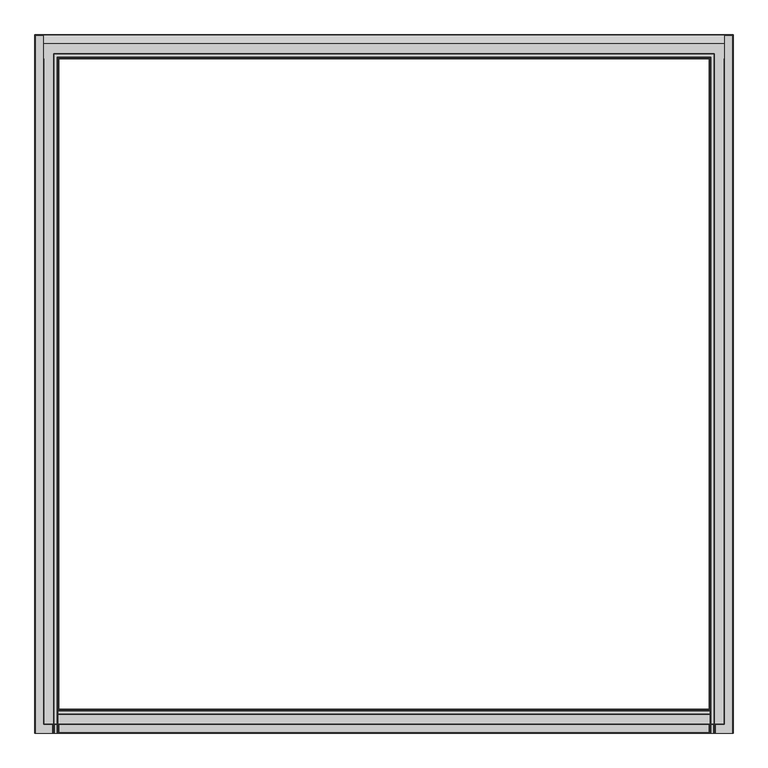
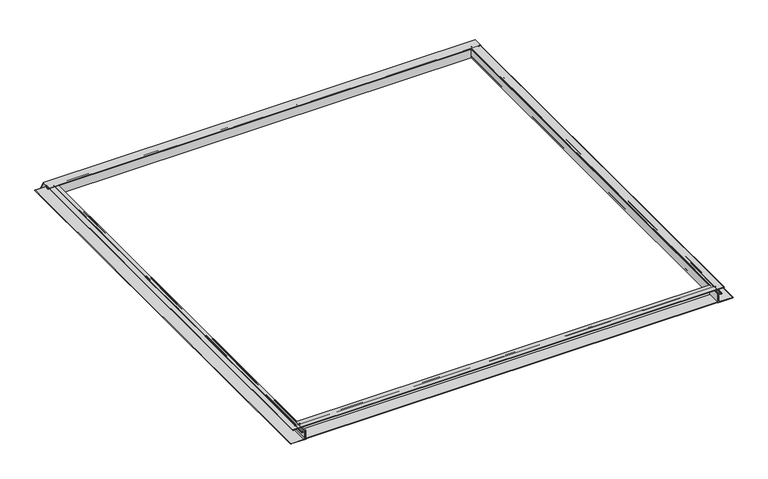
"""IFC4 building model written with IfcOpenShell, lengths in millimetres: fastener geometry."""

from ifc_helpers import new_model, si_unit, point, frame, frame_2d, origin, place, context, project, spatial, polyline, circle_curve, ellipse_curve, trimmed, segment, composite_curve, outline, extrude, source, transform, mapped, element, save
from ifc_brep_helpers import plane_surface, cylinder_surface, revolved_surface, advanced_brep


def fastener_f6a23df8(model_context):
    return source(origin(), model_context, "Body", "SolidModel", [
        advanced_brep(
        [(-1189.1053092, 1141.2343456, -15.1685625), (-1189.1053092, 1135.3165, -15.1685625), (-1189.1053092, 1135.3165, -13.8350625), (-1189.1053092, 1135.3165, -12.5015625), (-1189.1053092, 1190.6451024, -12.5015625), (-1189.1053092, 1217.7515464, -59.4513008), (-1189.1053092, 1215.4418567, -60.7848008), (-1189.1053092, 1189.1053092, -15.1685625), (-1189.1053092, 1161.8308783, -15.1685625), (-1189.1053092, 1159.573508, -17.4259327), (-1189.1053092, 1159.573508, -26.7633474), (-1189.1053092, 1149.6719492, -26.7633474), (-1189.1053092, 1149.6719492, -24.7662067), (-1189.1053092, 1150.5032605, -24.7662067), (-1189.1053092, 1151.5117177, -23.7577495), (-1189.1053092, 1151.5117177, -21.8661038), (-1189.1053092, 1156.2117258, -21.8661038), (-1189.1053092, 1156.2117258, -15.1685625), (-1189.1053092, 1152.1178999, -15.1685625), (-1189.1053092, 1151.9131963, -17.2095918), (-1189.1053092, 1152.9812344, -18.2776299), (-1189.1053092, 1152.5091166, -19.1991038), (-1189.1053092, 1140.8431289, -19.1991038), (-1189.1053092, 1140.3710112, -18.2776299), (-1189.1053092, 1141.4390493, -17.2095918), (1189.1053092, 1141.2343456, -15.1685625), (1189.1053092, 1141.4390493, -17.2095918), (1189.1053092, 1140.3710112, -18.2776299), (1189.1053092, 1140.8431289, -19.1991038), (1189.1053092, 1152.5091166, -19.1991038), (1189.1053092, 1152.9812344, -18.2776299), (1189.1053092, 1151.9131963, -17.2095918), (1189.1053092, 1152.1178999, -15.1685625), (1189.1053092, 1156.2117258, -15.1685625), (1189.1053092, 1156.2117258, -21.8661038), (1189.1053092, 1151.5117177, -21.8661038), (1189.1053092, 1151.5117177, -23.7577495), (1189.1053092, 1150.5032605, -24.7662067), (1189.1053092, 1149.6719492, -24.7662067), (1189.1053092, 1149.6719492, -26.7633474), (1189.1053092, 1159.573508, -26.7633474), (1189.1053092, 1159.573508, -17.4259327), (1189.1053092, 1161.8308783, -15.1685625), (1189.1053092, 1189.1053092, -15.1685625), (1189.1053092, 1215.4418567, -60.7848008), (1189.1053092, 1217.7515464, -59.4513008), (1189.1053092, 1190.6451024, -12.5015625), (1189.1053092, 1135.3165, -12.5015625), (1189.1053092, 1135.3165, -13.8350625), (1189.1053092, 1135.3165, -15.1685625), (1187.7718092, 1135.3165, -15.1685625), (1187.7718092, -1187.7718092, -15.1685625), (-1187.7718092, -1187.7718092, -15.1685625), (-1187.7718092, 1135.3165, -15.1685625), (1135.3165, 1135.3165, -15.1685625), (-1135.3165, 1135.3165, -15.1685625), (-1135.3165, -1135.3165, -15.1685625), (1135.3165, -1135.3165, -15.1685625), (-1141.2160631, 1135.3165, -15.1685625), (-1152.1361825, 1135.3165, -15.1685625), (-1152.1361825, -1152.1361825, -15.1685625), (1152.1361825, -1152.1361825, -15.1685625), (1152.1361825, 1135.3165, -15.1685625), (1141.2160631, 1135.3165, -15.1685625), (1141.2160631, -1141.2160631, -15.1685625), (-1141.2160631, -1141.2160631, -15.1685625), (-1156.2117258, 1135.3165, -15.1685625), (-1161.8308783, 1135.3165, -15.1685625), (-1161.8308783, -1161.8308783, -15.1685625), (1161.8308783, -1161.8308783, -15.1685625), (1161.8308783, 1135.3165, -15.1685625), (1156.2117258, 1135.3165, -15.1685625), (1156.2117258, -1156.2117258, -15.1685625), (-1156.2117258, -1156.2117258, -15.1685625), (-1187.7718092, 1135.3165, -12.5015625), (1187.7718092, 1135.3165, -12.5015625), (1135.3165, 1135.3165, -12.5015625), (-1135.3165, 1135.3165, -12.5015625), (-1187.7718092, -1187.7718092, -12.5015625), (1187.7718092, -1187.7718092, -12.5015625), (1135.3165, -1135.3165, -12.5015625), (-1135.3165, -1135.3165, -12.5015625), (-1141.4390493, 1135.3165, -17.221498), (-1140.3710112, 1135.3165, -18.2895361), (-1140.8431289, 1135.3165, -19.21101), (-1152.5091166, 1135.3165, -19.21101), (-1152.9812344, 1135.3165, -18.2895361), (-1151.9131963, 1135.3165, -17.221498), (-1156.2117258, 1135.3165, -21.87801), (-1151.5117177, 1135.3165, -21.87801), (-1151.5117177, 1135.3165, -23.7696558), (-1150.5032605, 1135.3165, -24.7781129), (-1149.6719492, 1135.3165, -24.7781129), (-1149.6719492, 1135.3165, -26.7633474), (-1159.573508, 1135.3165, -26.7633474), (-1159.573508, 1135.3165, -17.4259327), (-1141.4390493, -1141.4390493, -17.221498), (-1140.3710112, -1140.3710112, -18.2895361), (-1140.8431289, -1140.8431289, -19.21101), (1140.8431289, -1140.8431289, -19.21101), (1140.8431289, 1135.3165, -19.21101), (1152.5091166, 1135.3165, -19.21101), (1152.5091166, -1152.5091166, -19.21101), (-1152.5091166, -1152.5091166, -19.21101), (-1152.9812344, -1152.9812344, -18.2895361), (-1151.9131963, -1151.9131963, -17.221498), (-1156.2117258, -1156.2117258, -21.87801), (1156.2117258, -1156.2117258, -21.87801), (1156.2117258, 1135.3165, -21.87801), (1151.5117177, 1135.3165, -21.87801), (1151.5117177, -1151.5117177, -21.87801), (-1151.5117177, -1151.5117177, -21.87801), (-1151.5117177, -1151.5117177, -23.7696558), (-1150.5032605, -1150.5032605, -24.7781129), (1150.5032605, -1150.5032605, -24.7781129), (1150.5032605, 1135.3165, -24.7781129), (1149.6719492, 1135.3165, -24.7781129), (1149.6719492, -1149.6719492, -24.7781129), (-1149.6719492, -1149.6719492, -24.7781129), (-1149.6719492, -1149.6719492, -26.7633474), (1149.6719492, -1149.6719492, -26.7633474), (1149.6719492, 1135.3165, -26.7633474), (1159.573508, 1135.3165, -26.7633474), (1159.573508, -1159.573508, -26.7633474), (-1159.573508, -1159.573508, -26.7633474), (-1159.573508, -1159.573508, -17.4259327), (1141.4390493, -1141.4390493, -17.221498), (1140.3710112, -1140.3710112, -18.2895361), (1152.9812344, -1152.9812344, -18.2895361), (1151.9131963, -1151.9131963, -17.221498), (1151.5117177, -1151.5117177, -23.7696558), (1159.573508, -1159.573508, -17.4259327), (1140.3710112, 1135.3165, -18.2895361), (1141.4390493, 1135.3165, -17.221498), (1151.9131963, 1135.3165, -17.221498), (1152.9812344, 1135.3165, -18.2895361), (1159.573508, 1135.3165, -17.4259327), (1151.5117177, 1135.3165, -23.7696558)],
        [
            (0, 1),
            (1, 2),
            (2, 3),
            (3, 4),
            (4, 5),
            (5, 6),
            (6, 7),
            (7, 8),
            (8, 9, circle_curve(frame((-1189.1053092, 1161.8308783, -17.4259327), z_axis=(1.0, 0.0, 0.0), x_axis=(0.0, 1.0, 0.0)), 2.2573702)),
            (9, 10),
            (10, 11),
            (11, 12, circle_curve(frame((-1189.1053092, 1149.6719492, -25.764777), z_axis=(-1.0, 0.0, 0.0), x_axis=(0.0, 1.0, 0.0)), 0.9985703)),
            (12, 13),
            (13, 14, circle_curve(frame((-1189.1053092, 1150.5032605, -23.7577495), z_axis=(1.0, 0.0, 0.0), x_axis=(0.0, 1.0, 0.0)), 1.0084572)),
            (14, 15),
            (15, 16),
            (16, 17),
            (17, 18),
            (18, 19, circle_curve(frame((-1189.1053092, 1152.8500183, -16.2727698), z_axis=(1.0, 0.0, 0.0), x_axis=(0.0, 1.0, 0.0)), 1.3248664)),
            (19, 20),
            (20, 21, circle_curve(frame((-1189.1053092, 1152.5091166, -18.6174219), z_axis=(-1.0, 0.0, 0.0), x_axis=(0.0, 1.0, 0.0)), 0.5816819)),
            (21, 22),
            (22, 23, circle_curve(frame((-1189.1053092, 1140.8431289, -18.6174219), z_axis=(-1.0, 0.0, 0.0), x_axis=(0.0, 1.0, 0.0)), 0.5816819)),
            (23, 24),
            (24, 0, circle_curve(frame((-1189.1053092, 1140.5022273, -16.2727698), z_axis=(1.0, 0.0, 0.0), x_axis=(0.0, 1.0, 0.0)), 1.3248664)),
            (25, 26, circle_curve(frame((1189.1053092, 1140.5022273, -16.2727698), z_axis=(-1.0, 0.0, 0.0), x_axis=(0.0, 1.0, 0.0)), 1.3248664)),
            (26, 27),
            (27, 28, circle_curve(frame((1189.1053092, 1140.8431289, -18.6174219), z_axis=(1.0, 0.0, 0.0), x_axis=(0.0, 1.0, 0.0)), 0.5816819)),
            (28, 29),
            (29, 30, circle_curve(frame((1189.1053092, 1152.5091166, -18.6174219), z_axis=(1.0, 0.0, 0.0), x_axis=(0.0, 1.0, 0.0)), 0.5816819)),
            (30, 31),
            (31, 32, circle_curve(frame((1189.1053092, 1152.8500183, -16.2727698), z_axis=(-1.0, 0.0, 0.0), x_axis=(0.0, 1.0, 0.0)), 1.3248664)),
            (32, 33),
            (33, 34),
            (34, 35),
            (35, 36),
            (36, 37, circle_curve(frame((1189.1053092, 1150.5032605, -23.7577495), z_axis=(-1.0, 0.0, 0.0), x_axis=(0.0, 1.0, 0.0)), 1.0084572)),
            (37, 38),
            (38, 39, circle_curve(frame((1189.1053092, 1149.6719492, -25.764777), z_axis=(1.0, 0.0, 0.0), x_axis=(0.0, 1.0, 0.0)), 0.9985703)),
            (39, 40),
            (40, 41),
            (41, 42, circle_curve(frame((1189.1053092, 1161.8308783, -17.4259327), z_axis=(-1.0, 0.0, 0.0), x_axis=(0.0, 1.0, 0.0)), 2.2573702)),
            (42, 43),
            (43, 44),
            (44, 45),
            (45, 46),
            (46, 47),
            (47, 48),
            (48, 49),
            (49, 25),
            (0, 25),
            (49, 50),
            (50, 51),
            (51, 52),
            (52, 53),
            (53, 1),
            (54, 55),
            (55, 56),
            (56, 57),
            (57, 54),
            (58, 59),
            (59, 60),
            (60, 61),
            (61, 62),
            (62, 63),
            (63, 64),
            (64, 65),
            (65, 58),
            (66, 67),
            (67, 68),
            (68, 69),
            (69, 70),
            (70, 71),
            (71, 72),
            (72, 73),
            (73, 66),
            (53, 2, circle_curve(frame((-1187.7718092, 1135.3165, -13.8350625), z_axis=(0.0, 1.0, 0.0), x_axis=(1.0, 0.0, 0.0)), 1.3335)),
            (2, 74, circle_curve(frame((-1187.7718092, 1135.3165, -13.8350625), z_axis=(0.0, 1.0, 0.0), x_axis=(1.0, 0.0, 0.0)), 1.3335)),
            (74, 3),
            (47, 75),
            (75, 48, circle_curve(frame((1187.7718092, 1135.3165, -13.8350625), z_axis=(0.0, 1.0, 0.0), x_axis=(-1.0, 0.0, 0.0)), 1.3335)),
            (48, 50, circle_curve(frame((1187.7718092, 1135.3165, -13.8350625), z_axis=(0.0, 1.0, 0.0), x_axis=(-1.0, 0.0, 0.0)), 1.3335)),
            (54, 76),
            (76, 77),
            (77, 55),
            (74, 78),
            (78, 79),
            (79, 75),
            (46, 4),
            (76, 80),
            (80, 81),
            (81, 77),
            (45, 5),
            (44, 6),
            (43, 7),
            (42, 8),
            (41, 9),
            (40, 10),
            (39, 11),
            (38, 12),
            (37, 13),
            (36, 14),
            (35, 15),
            (34, 16),
            (33, 17),
            (32, 18),
            (19, 31),
            (30, 20),
            (29, 21),
            (28, 22),
            (27, 23),
            (26, 24),
            (58, 82, circle_curve(frame((-1140.5022273, 1135.3165, -16.284676), z_axis=(0.0, -1.0, 0.0), x_axis=(1.0, 0.0, 0.0)), 1.3248664)),
            (82, 83),
            (83, 84, circle_curve(frame((-1140.8431289, 1135.3165, -18.6293281), z_axis=(0.0, 1.0, 0.0), x_axis=(1.0, 0.0, 0.0)), 0.5816819)),
            (84, 85),
            (85, 86, circle_curve(frame((-1152.5091166, 1135.3165, -18.6293281), z_axis=(0.0, 1.0, 0.0), x_axis=(1.0, 0.0, 0.0)), 0.5816819)),
            (86, 87),
            (87, 59, circle_curve(frame((-1152.8500183, 1135.3165, -16.284676), z_axis=(0.0, -1.0, 0.0), x_axis=(1.0, 0.0, 0.0)), 1.3248664)),
            (66, 88),
            (88, 89),
            (89, 90),
            (90, 91, circle_curve(frame((-1150.5032605, 1135.3165, -23.7696558), z_axis=(0.0, -1.0, 0.0), x_axis=(1.0, 0.0, 0.0)), 1.0084572)),
            (91, 92),
            (92, 93, circle_curve(frame((-1149.6719492, 1135.3165, -25.7707301), z_axis=(0.0, 1.0, 0.0), x_axis=(1.0, 0.0, 0.0)), 0.9926172)),
            (93, 94),
            (94, 95),
            (95, 67, circle_curve(frame((-1161.8308783, 1135.3165, -17.4259327), z_axis=(0.0, -1.0, 0.0), x_axis=(1.0, 0.0, 0.0)), 2.2573702)),
            (65, 96, ellipse_curve(frame((-1140.5022273, -1140.5022273, -16.284676), z_axis=(0.7071067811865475, -0.7071067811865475, 0.0), x_axis=(-0.7071067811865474, -0.7071067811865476, 0.0)), 1.873644, 1.3248664)),
            (96, 82),
            (96, 97),
            (97, 83),
            (97, 98, ellipse_curve(frame((-1140.8431289, -1140.8431289, -18.6293281), z_axis=(-0.7071067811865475, 0.7071067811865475, 0.0), x_axis=(0.7071067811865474, 0.7071067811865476, 0.0)), 0.8226224, 0.5816819)),
            (98, 84),
            (98, 99),
            (99, 100),
            (100, 101),
            (101, 102),
            (102, 103),
            (103, 85),
            (103, 104, ellipse_curve(frame((-1152.5091166, -1152.5091166, -18.6293281), z_axis=(-0.7071067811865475, 0.7071067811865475, 0.0), x_axis=(0.7071067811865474, 0.7071067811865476, 0.0)), 0.8226224, 0.5816819)),
            (104, 86),
            (104, 105),
            (105, 87),
            (105, 60, ellipse_curve(frame((-1152.8500183, -1152.8500183, -16.284676), z_axis=(0.7071067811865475, -0.7071067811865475, 0.0), x_axis=(-0.7071067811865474, -0.7071067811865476, 0.0)), 1.873644, 1.3248664)),
            (73, 106),
            (106, 88),
            (106, 107),
            (107, 108),
            (108, 109),
            (109, 110),
            (110, 111),
            (111, 89),
            (111, 112),
            (112, 90),
            (112, 113, ellipse_curve(frame((-1150.5032605, -1150.5032605, -23.7696558), z_axis=(0.7071067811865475, -0.7071067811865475, 0.0), x_axis=(-0.7071067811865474, -0.7071067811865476, 0.0)), 1.4261738, 1.0084572)),
            (113, 91),
            (113, 114),
            (114, 115),
            (115, 116),
            (116, 117),
            (117, 118),
            (118, 92),
            (118, 119, ellipse_curve(frame((-1149.6719492, -1149.6719492, -25.7707301), z_axis=(-0.7071067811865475, 0.7071067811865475, 0.0), x_axis=(0.7071067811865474, 0.7071067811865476, 0.0)), 1.4037727, 0.9926172)),
            (119, 93),
            (119, 120),
            (120, 121),
            (121, 122),
            (122, 123),
            (123, 124),
            (124, 94),
            (124, 125),
            (125, 95),
            (125, 68, ellipse_curve(frame((-1161.8308783, -1161.8308783, -17.4259327), z_axis=(0.7071067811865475, -0.7071067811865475, 0.0), x_axis=(-0.7071067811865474, -0.7071067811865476, 0.0)), 3.1924036, 2.2573702)),
            (52, 78, ellipse_curve(frame((-1187.7718092, -1187.7718092, -13.8350625), z_axis=(-0.7071067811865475, 0.7071067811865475, 0.0), x_axis=(0.7071067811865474, 0.7071067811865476, 0.0)), 1.8858538, 1.3335)),
            (81, 56),
            (64, 126, ellipse_curve(frame((1140.5022273, -1140.5022273, -16.284676), z_axis=(0.7071067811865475, 0.7071067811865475, 0.0), x_axis=(0.7071067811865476, -0.7071067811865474, 0.0)), 1.873644, 1.3248664)),
            (126, 96),
            (126, 127),
            (127, 97),
            (127, 99, ellipse_curve(frame((1140.8431289, -1140.8431289, -18.6293281), z_axis=(-0.7071067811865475, -0.7071067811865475, 0.0), x_axis=(-0.7071067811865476, 0.7071067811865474, 0.0)), 0.8226224, 0.5816819)),
            (102, 128, ellipse_curve(frame((1152.5091166, -1152.5091166, -18.6293281), z_axis=(-0.7071067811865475, -0.7071067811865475, 0.0), x_axis=(-0.7071067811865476, 0.7071067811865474, 0.0)), 0.8226224, 0.5816819)),
            (128, 104),
            (128, 129),
            (129, 105),
            (129, 61, ellipse_curve(frame((1152.8500183, -1152.8500183, -16.284676), z_axis=(0.7071067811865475, 0.7071067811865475, 0.0), x_axis=(0.7071067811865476, -0.7071067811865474, 0.0)), 1.873644, 1.3248664)),
            (72, 107),
            (110, 130),
            (130, 112),
            (130, 114, ellipse_curve(frame((1150.5032605, -1150.5032605, -23.7696558), z_axis=(0.7071067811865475, 0.7071067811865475, 0.0), x_axis=(0.7071067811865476, -0.7071067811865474, 0.0)), 1.4261738, 1.0084572)),
            (117, 120, ellipse_curve(frame((1149.6719492, -1149.6719492, -25.7707301), z_axis=(-0.7071067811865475, -0.7071067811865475, 0.0), x_axis=(-0.7071067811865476, 0.7071067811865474, 0.0)), 1.4037727, 0.9926172)),
            (123, 131),
            (131, 125),
            (131, 69, ellipse_curve(frame((1161.8308783, -1161.8308783, -17.4259327), z_axis=(0.7071067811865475, 0.7071067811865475, 0.0), x_axis=(0.7071067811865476, -0.7071067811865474, 0.0)), 3.1924036, 2.2573702)),
            (51, 79, ellipse_curve(frame((1187.7718092, -1187.7718092, -13.8350625), z_axis=(-0.7071067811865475, -0.7071067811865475, 0.0), x_axis=(-0.7071067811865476, 0.7071067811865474, 0.0)), 1.8858538, 1.3335)),
            (80, 57),
            (100, 132, circle_curve(frame((1140.8431289, 1135.3165, -18.6293281), z_axis=(0.0, 1.0, 0.0), x_axis=(-1.0, 0.0, 0.0)), 0.5816819)),
            (132, 133),
            (133, 63, circle_curve(frame((1140.5022273, 1135.3165, -16.284676), z_axis=(0.0, -1.0, 0.0), x_axis=(-1.0, 0.0, 0.0)), 1.3248664)),
            (62, 134, circle_curve(frame((1152.8500183, 1135.3165, -16.284676), z_axis=(0.0, -1.0, 0.0), x_axis=(-1.0, 0.0, 0.0)), 1.3248664)),
            (134, 135),
            (135, 101, circle_curve(frame((1152.5091166, 1135.3165, -18.6293281), z_axis=(0.0, 1.0, 0.0), x_axis=(-1.0, 0.0, 0.0)), 0.5816819)),
            (108, 71),
            (70, 136, circle_curve(frame((1161.8308783, 1135.3165, -17.4259327), z_axis=(0.0, -1.0, 0.0), x_axis=(-1.0, 0.0, 0.0)), 2.2573702)),
            (136, 122),
            (121, 116, circle_curve(frame((1149.6719492, 1135.3165, -25.7707301), z_axis=(0.0, 1.0, 0.0), x_axis=(-1.0, 0.0, 0.0)), 0.9926172)),
            (115, 137, circle_curve(frame((1150.5032605, 1135.3165, -23.7696558), z_axis=(0.0, -1.0, 0.0), x_axis=(-1.0, 0.0, 0.0)), 1.0084572)),
            (137, 109),
            (133, 126),
            (132, 127),
            (135, 128),
            (134, 129),
            (137, 130),
            (136, 131),
        ],
        [
            plane_surface(frame((-1189.1053092, 1219.2, 0.0), z_axis=(-1.0, 0.0, 0.0), x_axis=(0.0, 0.0, 1.0))),
            plane_surface(frame((1189.1053092, 1219.2, 0.0), z_axis=(1.0, 0.0, 0.0), x_axis=(0.0, 0.0, 1.0))),
            plane_surface(frame((-1189.1053092, 1141.2343456, -15.1685625), z_axis=(0.0, 0.0, -1.0), x_axis=(1.0, 0.0, 0.0))),
            plane_surface(frame((-1189.1053092, 1135.3165, -15.1685625), z_axis=(0.0, -1.0, 0.0), x_axis=(1.0, 0.0, 0.0))),
            plane_surface(frame((-1189.1053092, 1135.3165, -12.5015625), z_axis=(0.0, 0.0, 1.0), x_axis=(1.0, 0.0, 0.0))),
            plane_surface(frame((-1189.1053092, 1190.6451024, -12.5015625), z_axis=(0.0, 0.8660254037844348, 0.5000000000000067), x_axis=(1.0, 0.0, 0.0))),
            plane_surface(frame((-1189.1053092, 1217.7515464, -59.4513008), z_axis=(0.0, 0.4999999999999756, -0.8660254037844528), x_axis=(1.0, 0.0, 0.0))),
            plane_surface(frame((-1189.1053092, 1215.4418567, -60.7848008), z_axis=(0.0, -0.8660254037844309, -0.5000000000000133), x_axis=(1.0, 0.0, 0.0))),
            plane_surface(frame((-1189.1053092, 1189.1053092, -15.1685625), z_axis=(0.0, 0.0, -1.0), x_axis=(1.0, 0.0, 0.0))),
            revolved_surface(polyline([(1189.1053092, 1164.0882485, -17.4259327), (-1189.1053092, 1164.0882485, -17.4259327)]), (-1189.1053092, 1161.8308783, -17.4259327), (1.0, 0.0, 0.0)),
            plane_surface(frame((-1189.1053092, 1159.573508, -17.4259327), z_axis=(0.0, 1.0, 0.0), x_axis=(1.0, 0.0, 0.0))),
            plane_surface(frame((-1189.1053092, 1159.573508, -26.7633474), z_axis=(0.0, 0.0, -1.0), x_axis=(1.0, 0.0, 0.0))),
            cylinder_surface(frame((-1189.1053092, 1149.6719492, -25.764777), z_axis=(-1.0, 0.0, 0.0), x_axis=(0.0, 1.0, 0.0)), 0.9985703),
            plane_surface(frame((-1189.1053092, 1149.6719492, -24.7662067), z_axis=(0.0, 0.0, 1.0), x_axis=(1.0, 0.0, 0.0))),
            revolved_surface(polyline([(1189.1053092, 1151.5117177, -23.7577495), (-1189.1053092, 1151.5117177, -23.7577495)]), (-1189.1053092, 1150.5032605, -23.7577495), (1.0, 0.0, 0.0)),
            plane_surface(frame((-1189.1053092, 1151.5117177, -23.7577495), z_axis=(0.0, -1.0, 0.0), x_axis=(1.0, 0.0, 0.0))),
            plane_surface(frame((-1189.1053092, 1151.5117177, -21.8661038), z_axis=(0.0, 0.0, 1.0), x_axis=(1.0, 0.0, 0.0))),
            plane_surface(frame((-1189.1053092, 1156.2117258, -21.8661038), z_axis=(0.0, -1.0, 0.0), x_axis=(1.0, 0.0, 0.0))),
            plane_surface(frame((-1189.1053092, 1156.2117258, -15.1685625), z_axis=(0.0, 0.0, -1.0), x_axis=(1.0, 0.0, 0.0))),
            plane_surface(frame((-1189.1053092, 1151.9131963, -17.2095918), z_axis=(0.0, 0.7071067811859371, 0.7071067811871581), x_axis=(1.0, 0.0, 0.0))),
            cylinder_surface(frame((-1189.1053092, 1152.5091166, -18.6174219), z_axis=(-1.0, 0.0, 0.0), x_axis=(0.0, 1.0, 0.0)), 0.5816819),
            plane_surface(frame((-1189.1053092, 1152.5091166, -19.1991038), z_axis=(0.0, 0.0, -1.0), x_axis=(1.0, 0.0, 0.0))),
            cylinder_surface(frame((-1189.1053092, 1140.8431289, -18.6174219), z_axis=(-1.0, 0.0, 0.0), x_axis=(0.0, 1.0, 0.0)), 0.5816819),
            plane_surface(frame((-1189.1053092, 1140.3710112, -18.2776299), z_axis=(0.0, -0.7071067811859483, 0.7071067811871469), x_axis=(1.0, 0.0, 0.0))),
            revolved_surface(polyline([(1189.1053092, 1154.1748847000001, -16.2727698), (-1189.1053092, 1154.1748847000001, -16.2727698)]), (-1189.1053092, 1152.8500183, -16.2727698), (1.0, 0.0, 0.0)),
            revolved_surface(polyline([(1189.1053092, 1141.8270937, -16.2727698), (-1189.1053092, 1141.8270937, -16.2727698)]), (-1189.1053092, 1140.5022273, -16.2727698), (1.0, 0.0, 0.0)),
            plane_surface(frame((-1219.2, 1135.3165, 0.0), z_axis=(0.0, 1.0, 0.0), x_axis=(0.0, 0.0, 1.0))),
            revolved_surface(polyline([(-1139.1773609, -1141.8270936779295, -16.284676), (-1139.1773609, 1135.3165, -16.284676)]), (-1140.5022273, 1135.3165, -16.284676), (0.0, -1.0, 0.0)),
            plane_surface(frame((-1141.4390493, 1135.3165, -17.221498), z_axis=(0.7071067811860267, 0.0, 0.7071067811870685), x_axis=(0.0, -1.0, 0.0))),
            cylinder_surface(frame((-1140.8431289, 1135.3165, -18.6293281), z_axis=(0.0, 1.0, 0.0), x_axis=(1.0, 0.0, 0.0)), 0.5816819),
            plane_surface(frame((-1140.8431289, 1135.3165, -19.21101), z_axis=(0.0, 0.0, -1.0), x_axis=(0.0, -1.0, 0.0))),
            cylinder_surface(frame((-1152.5091166, 1135.3165, -18.6293281), z_axis=(0.0, 1.0, 0.0), x_axis=(1.0, 0.0, 0.0)), 0.5816819),
            plane_surface(frame((-1152.9812344, 1135.3165, -18.2895361), z_axis=(-0.7071067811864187, 0.0, 0.7071067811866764), x_axis=(0.0, -1.0, 0.0))),
            revolved_surface(polyline([(-1151.5251519, -1154.1748846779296, -16.284676), (-1151.5251519, 1135.3165, -16.284676)]), (-1152.8500183, 1135.3165, -16.284676), (0.0, -1.0, 0.0)),
            plane_surface(frame((-1156.2117258, 1135.3165, -15.1685625), z_axis=(1.0, 0.0, 0.0), x_axis=(0.0, -1.0, 0.0))),
            plane_surface(frame((-1156.2117258, 1135.3165, -21.87801), z_axis=(0.0, 0.0, 1.0), x_axis=(0.0, -1.0, 0.0))),
            plane_surface(frame((-1151.5117177, 1135.3165, -21.87801), z_axis=(1.0, 0.0, 0.0), x_axis=(0.0, -1.0, 0.0))),
            revolved_surface(polyline([(-1149.4948032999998, -1151.5117177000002, -23.7696558), (-1149.4948032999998, 1135.3165, -23.7696558)]), (-1150.5032605, 1135.3165, -23.7696558), (0.0, -1.0, 0.0)),
            plane_surface(frame((-1150.5032605, 1135.3165, -24.7781129), z_axis=(0.0, 0.0, 1.0), x_axis=(0.0, -1.0, 0.0))),
            cylinder_surface(frame((-1149.6719492, 1135.3165, -25.7707301), z_axis=(0.0, 1.0, 0.0), x_axis=(1.0, 0.0, 0.0)), 0.9926172),
            plane_surface(frame((-1149.6719492, 1135.3165, -26.7633474), z_axis=(0.0, 0.0, -1.0), x_axis=(0.0, -1.0, 0.0))),
            plane_surface(frame((-1159.573508, 1135.3165, -26.7633474), z_axis=(-1.0, 0.0, 0.0), x_axis=(0.0, -1.0, 0.0))),
            revolved_surface(polyline([(-1159.5735081, -1164.0882485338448, -17.4259327), (-1159.5735081, 1135.3165, -17.4259327)]), (-1161.8308783, 1135.3165, -17.4259327), (0.0, -1.0, 0.0)),
            cylinder_surface(frame((-1187.7718092, 1135.3165, -13.8350625), z_axis=(0.0, 1.0, 0.0), x_axis=(1.0, 0.0, 0.0)), 1.3335),
            plane_surface(frame((-1135.3165, 1135.3165, -12.5015625), z_axis=(1.0, 0.0, 0.0), x_axis=(0.0, -1.0, 0.0))),
            revolved_surface(polyline([(1141.8270936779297, -1139.1773609, -16.284676), (-1141.8270936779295, -1139.1773609, -16.284676)]), (-1219.2, -1140.5022273, -16.284676), (1.0, 0.0, 0.0)),
            plane_surface(frame((-1141.4390493, -1141.4390493, -17.221498), z_axis=(0.0, 0.7071067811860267, 0.7071067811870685), x_axis=(1.0, 0.0, 0.0))),
            cylinder_surface(frame((-1219.2, -1140.8431289, -18.6293281), z_axis=(-1.0, 0.0, 0.0), x_axis=(0.0, 1.0, 0.0)), 0.5816819),
            cylinder_surface(frame((-1219.2, -1152.5091166, -18.6293281), z_axis=(-1.0, 0.0, 0.0), x_axis=(0.0, 1.0, 0.0)), 0.5816819),
            plane_surface(frame((-1152.9812344, -1152.9812344, -18.2895361), z_axis=(0.0, -0.7071067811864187, 0.7071067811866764), x_axis=(1.0, 0.0, 0.0))),
            revolved_surface(polyline([(1154.1748846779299, -1151.5251519, -16.284676), (-1154.1748846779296, -1151.5251519, -16.284676)]), (-1219.2, -1152.8500183, -16.284676), (1.0, 0.0, 0.0)),
            plane_surface(frame((-1156.2117258, -1156.2117258, -15.1685625), z_axis=(0.0, 1.0, 0.0), x_axis=(1.0, 0.0, 0.0))),
            plane_surface(frame((-1151.5117177, -1151.5117177, -21.87801), z_axis=(0.0, 1.0, 0.0), x_axis=(1.0, 0.0, 0.0))),
            revolved_surface(polyline([(1151.5117177, -1149.4948032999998, -23.7696558), (-1151.5117177, -1149.4948032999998, -23.7696558)]), (-1219.2, -1150.5032605, -23.7696558), (1.0, 0.0, 0.0)),
            cylinder_surface(frame((-1219.2, -1149.6719492, -25.7707301), z_axis=(-1.0, 0.0, 0.0), x_axis=(0.0, 1.0, 0.0)), 0.9926172),
            plane_surface(frame((-1159.573508, -1159.573508, -26.7633474), z_axis=(0.0, -1.0, 0.0), x_axis=(1.0, 0.0, 0.0))),
            revolved_surface(polyline([(1164.0882485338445, -1159.5735081, -17.4259327), (-1164.0882485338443, -1159.5735081, -17.4259327)]), (-1219.2, -1161.8308783, -17.4259327), (1.0, 0.0, 0.0)),
            cylinder_surface(frame((-1219.2, -1187.7718092, -13.8350625), z_axis=(-1.0, 0.0, 0.0), x_axis=(0.0, 1.0, 0.0)), 1.3335),
            plane_surface(frame((-1135.3165, -1135.3165, -12.5015625), z_axis=(0.0, 1.0, 0.0), x_axis=(1.0, 0.0, 0.0))),
            plane_surface(frame((1219.2, 1135.3165, 0.0), z_axis=(0.0, 1.0, 0.0), x_axis=(0.0, 0.0, 1.0))),
            revolved_surface(polyline([(1139.1773609, 1135.3164999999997, -16.284676), (1139.1773609, -1141.8270936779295, -16.284676)]), (1140.5022273, -1219.2, -16.284676), (0.0, 1.0, 0.0)),
            plane_surface(frame((1141.4390493, -1141.4390493, -17.221498), z_axis=(-0.7071067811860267, 0.0, 0.7071067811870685), x_axis=(0.0, 1.0, 0.0))),
            cylinder_surface(frame((1140.8431289, -1219.2, -18.6293281), z_axis=(0.0, -1.0, 0.0), x_axis=(-1.0, 0.0, 0.0)), 0.5816819),
            cylinder_surface(frame((1152.5091166, -1219.2, -18.6293281), z_axis=(0.0, -1.0, 0.0), x_axis=(-1.0, 0.0, 0.0)), 0.5816819),
            plane_surface(frame((1152.9812344, -1152.9812344, -18.2895361), z_axis=(0.7071067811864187, 0.0, 0.7071067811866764), x_axis=(0.0, 1.0, 0.0))),
            revolved_surface(polyline([(1151.5251519, 1135.3164999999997, -16.284676), (1151.5251519, -1154.1748846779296, -16.284676)]), (1152.8500183, -1219.2, -16.284676), (0.0, 1.0, 0.0)),
            plane_surface(frame((1156.2117258, -1156.2117258, -15.1685625), z_axis=(-1.0, 0.0, 0.0), x_axis=(0.0, 1.0, 0.0))),
            plane_surface(frame((1151.5117177, -1151.5117177, -21.87801), z_axis=(-1.0, 0.0, 0.0), x_axis=(0.0, 1.0, 0.0))),
            revolved_surface(polyline([(1149.4948032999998, 1135.3164999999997, -23.7696558), (1149.4948032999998, -1151.5117177, -23.7696558)]), (1150.5032605, -1219.2, -23.7696558), (0.0, 1.0, 0.0)),
            cylinder_surface(frame((1149.6719492, -1219.2, -25.7707301), z_axis=(0.0, -1.0, 0.0), x_axis=(-1.0, 0.0, 0.0)), 0.9926172),
            plane_surface(frame((1159.573508, -1159.573508, -26.7633474), z_axis=(1.0, 0.0, 0.0), x_axis=(0.0, 1.0, 0.0))),
            revolved_surface(polyline([(1159.5735081, 1135.3164999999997, -17.4259327), (1159.5735081, -1164.0882485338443, -17.4259327)]), (1161.8308783, -1219.2, -17.4259327), (0.0, 1.0, 0.0)),
            cylinder_surface(frame((1187.7718092, -1219.2, -13.8350625), z_axis=(0.0, -1.0, 0.0), x_axis=(-1.0, 0.0, 0.0)), 1.3335),
            plane_surface(frame((1135.3165, -1135.3165, -12.5015625), z_axis=(-1.0, 0.0, 0.0), x_axis=(0.0, 1.0, 0.0))),
        ],
        [
            (0, [[1, 2, 3, 4, 5, 6, 7, 8, 9, 10, 11, 12, 13, 14, 15, 16, 17, 18, 19, 20, 21, 22, 23, 24, 25]]),
            (1, [[26, 27, 28, 29, 30, 31, 32, 33, 34, 35, 36, 37, 38, 39, 40, 41, 42, 43, 44, 45, 46, 47, 48, 49, 50]]),
            (2, [[-1, 51, -50, 52, 53, 54, 55, 56], [57, 58, 59, 60], [61, 62, 63, 64, 65, 66, 67, 68], [69, 70, 71, 72, 73, 74, 75, 76]]),
            (3, [[-2, -56, 77]]),
            (3, [[-3, 78, 79]]),
            (3, [[-48, 80, 81]]),
            (3, [[-49, 82, -52]]),
            (3, [[-57, 83, 84, 85]]),
            (4, [[-4, -79, 86, 87, 88, -80, -47, 89], [-84, 90, 91, 92]]),
            (5, [[-5, -89, -46, 93]]),
            (6, [[-6, -93, -45, 94]]),
            (7, [[-7, -94, -44, 95]]),
            (8, [[-8, -95, -43, 96]]),
            (9, [[-9, -96, -42, 97]]),
            (10, [[-10, -97, -41, 98]]),
            (11, [[-11, -98, -40, 99]]),
            (12, [[-12, -99, -39, 100]]),
            (13, [[-13, -100, -38, 101]]),
            (14, [[-14, -101, -37, 102]]),
            (15, [[-15, -102, -36, 103]]),
            (16, [[-16, -103, -35, 104]]),
            (17, [[-17, -104, -34, 105]]),
            (18, [[-18, -105, -33, 106]]),
            (19, [[-20, 107, -31, 108]]),
            (20, [[-21, -108, -30, 109]]),
            (21, [[-22, -109, -29, 110]]),
            (22, [[-23, -110, -28, 111]]),
            (23, [[-24, -111, -27, 112]]),
            (24, [[-19, -106, -32, -107]]),
            (25, [[-25, -112, -26, -51]]),
            (26, [[113, 114, 115, 116, 117, 118, 119, -61]]),
            (26, [[120, 121, 122, 123, 124, 125, 126, 127, 128, -69]]),
            (27, [[-113, -68, 129, 130]]),
            (28, [[-114, -130, 131, 132]]),
            (29, [[-115, -132, 133, 134]]),
            (30, [[-116, -134, 135, 136, 137, 138, 139, 140]]),
            (31, [[-117, -140, 141, 142]]),
            (32, [[-118, -142, 143, 144]]),
            (33, [[-119, -144, 145, -62]]),
            (34, [[-120, -76, 146, 147]]),
            (35, [[-121, -147, 148, 149, 150, 151, 152, 153]]),
            (36, [[-122, -153, 154, 155]]),
            (37, [[-123, -155, 156, 157]]),
            (38, [[-124, -157, 158, 159, 160, 161, 162, 163]]),
            (39, [[-125, -163, 164, 165]]),
            (40, [[-126, -165, 166, 167, 168, 169, 170, 171]]),
            (41, [[-127, -171, 172, 173]]),
            (42, [[-128, -173, 174, -70]]),
            (43, [[-55, 175, -86, -78, -77]]),
            (44, [[-92, 176, -58, -85]]),
            (45, [[-129, -67, 177, 178]]),
            (46, [[-131, -178, 179, 180]]),
            (47, [[-133, -180, 181, -135]]),
            (48, [[-139, 182, 183, -141]]),
            (49, [[-143, -183, 184, 185]]),
            (50, [[-145, -185, 186, -63]]),
            (51, [[-75, 187, -148, -146]]),
            (52, [[-152, 188, 189, -154]]),
            (53, [[-156, -189, 190, -158]]),
            (54, [[-162, 191, -166, -164]]),
            (55, [[-170, 192, 193, -172]]),
            (56, [[-174, -193, 194, -71]]),
            (57, [[-54, 195, -87, -175]]),
            (58, [[-91, 196, -59, -176]]),
            (59, [[-137, 197, 198, 199, -65, 200, 201, 202]]),
            (59, [[-150, 203, -73, 204, 205, -168, 206, -160, 207, 208]]),
            (60, [[-66, -199, 209, -177]]),
            (61, [[-179, -209, -198, 210]]),
            (62, [[-136, -181, -210, -197]]),
            (63, [[-138, -202, 211, -182]]),
            (64, [[-184, -211, -201, 212]]),
            (65, [[-64, -186, -212, -200]]),
            (66, [[-74, -203, -149, -187]]),
            (67, [[-151, -208, 213, -188]]),
            (68, [[-159, -190, -213, -207]]),
            (69, [[-161, -206, -167, -191]]),
            (70, [[-169, -205, 214, -192]]),
            (71, [[-72, -194, -214, -204]]),
            (72, [[-53, -82, -81, -88, -195]]),
            (73, [[-90, -83, -60, -196]]),
        ],
    ),
        extrude(outline(composite_curve([segment(polyline([(-1135.3165, -15.1804688), (-1135.3165, -65.9804688), (-1217.8665, -65.9804688)]), True, "CONTINUOUS"), segment(trimmed(circle_curve(frame_2d((-1217.8665, -64.6469688)), 1.3335), [point((-1217.8665, -65.9804688))], [point((-1217.8665, -63.3134688))], False, "CARTESIAN"), True, "CONTINUOUS"), segment(polyline([(-1217.8665, -63.3134688), (-1145.5344517, -63.3134688)]), True, "CONTINUOUS"), segment(trimmed(circle_curve(frame_2d((-1145.5344517, -55.7625171)), 7.5509517), [point((-1145.5344517, -63.3134688))], [point((-1137.9835, -55.7625171))], True, "CARTESIAN"), True, "CONTINUOUS"), segment(polyline([(-1137.9835, -55.7625171), (-1137.9835, -21.87801), (-1156.2117258, -21.87801), (-1156.2117258, -15.1804688), (-1152.1178999, -15.1804688)]), True, "CONTINUOUS"), segment(trimmed(circle_curve(frame_2d((-1152.8274757, -16.2725079)), 1.3023238), [point((-1152.1178999, -15.1804688))], [point((-1151.9131963, -17.1999455))], False, "CARTESIAN"), True, "CONTINUOUS"), segment(polyline([(-1151.9131963, -17.1999455), (-1152.9649499, -18.2679836)]), True, "CONTINUOUS"), segment(trimmed(circle_curve(frame_2d((-1152.5091166, -18.6293281)), 0.5816819), [point((-1152.9649499, -18.2679836))], [point((-1152.5091166, -19.21101))], True, "CARTESIAN"), True, "CONTINUOUS"), segment(polyline([(-1152.5091166, -19.21101), (-1140.8594568, -19.21101)]), True, "CONTINUOUS"), segment(trimmed(circle_curve(frame_2d((-1140.8594568, -18.6130003)), 0.5980097), [point((-1140.8594568, -19.21101))], [point((-1140.3710112, -18.2679836))], True, "CARTESIAN"), True, "CONTINUOUS"), segment(polyline([(-1140.3710112, -18.2679836), (-1141.460117, -17.1999455)]), True, "CONTINUOUS"), segment(trimmed(circle_curve(frame_2d((-1140.5022273, -16.284676)), 1.3248664), [point((-1141.460117, -17.1999455))], [point((-1141.2343456, -15.1804688))], False, "CARTESIAN"), True, "CONTINUOUS"), segment(polyline([(-1141.2343456, -15.1804688), (-1135.3165, -15.1804688)]), True, "CONTINUOUS")], self_intersect=False)), frame((-1135.3165, 0.0, 0.0), z_axis=(1.0, 0.0, 0.0), x_axis=(0.0, 1.0, 0.0)), (0.0, 0.0, 1.0), 2270.633),
        advanced_brep(
        [(-1135.3165, -1219.2, -15.1804688), (-1141.2343456, -1219.2, -15.1804688), (-1141.460117, -1219.2, -17.1999455), (-1140.3710112, -1219.2, -18.2679836), (-1140.8594568, -1219.2, -19.21101), (-1152.5091166, -1219.2, -19.21101), (-1152.9649499, -1219.2, -18.2679836), (-1151.9131963, -1219.2, -17.1999455), (-1152.1178999, -1219.2, -15.1804688), (-1156.2117258, -1219.2, -15.1804688), (-1156.2117258, -1219.2, -21.87801), (-1137.9835, -1219.2, -21.87801), (-1137.9835, -1219.2, -55.7625171), (-1145.5344517, -1219.2, -63.3134688), (-1217.8665, -1219.2, -63.3134688), (-1217.8665, -1219.2, -65.9804688), (-1135.3165, -1219.2, -65.9804688), (1135.3165, -1219.2, -15.1804688), (1135.3165, -1219.2, -65.9804688), (1217.8665, -1219.2, -65.9804688), (1217.8665, -1219.2, -63.3134688), (1145.5344517, -1219.2, -63.3134688), (1137.9835, -1219.2, -55.7625171), (1137.9835, -1219.2, -21.87801), (1156.2117258, -1219.2, -21.87801), (1156.2117258, -1219.2, -15.1804688), (1152.1178999, -1219.2, -15.1804688), (1151.9131963, -1219.2, -17.1999455), (1152.9649499, -1219.2, -18.2679836), (1152.5091166, -1219.2, -19.21101), (1140.8594568, -1219.2, -19.21101), (1140.3710112, -1219.2, -18.2679836), (1141.460117, -1219.2, -17.1999455), (1141.2343456, -1219.2, -15.1804688), (-1141.460117, 1141.460117, -17.1999455), (-1141.2343456, 1141.2343456, -15.1804688), (1141.2343456, 1141.2343456, -15.1804688), (1141.460117, 1141.460117, -17.1999455), (-1140.3710112, 1140.3710112, -18.2679836), (1140.3710112, 1140.3710112, -18.2679836), (-1140.8594568, 1140.8594568, -19.21101), (1140.8594568, 1140.8594568, -19.21101), (-1152.9649499, 1152.9649499, -18.2679836), (-1152.5091166, 1152.5091166, -19.21101), (1152.5091166, 1152.5091166, -19.21101), (1152.9649499, 1152.9649499, -18.2679836), (-1151.9131963, 1151.9131963, -17.1999455), (1151.9131963, 1151.9131963, -17.1999455), (-1152.1178999, 1152.1178999, -15.1804688), (1152.1178999, 1152.1178999, -15.1804688), (-1156.2117258, 1156.2117258, -21.87801), (-1156.2117258, 1156.2117258, -15.1804688), (1156.2117258, 1156.2117258, -15.1804688), (1156.2117258, 1156.2117258, -21.87801), (-1137.9835, 1137.9835, -55.7625171), (-1137.9835, 1137.9835, -21.87801), (1137.9835, 1137.9835, -21.87801), (1137.9835, 1137.9835, -55.7625171), (-1145.5344517, 1145.5344517, -63.3134688), (1145.5344517, 1145.5344517, -63.3134688), (-1217.8665, 1217.8665, -65.9804688), (-1217.8665, 1217.8665, -63.3134688), (1217.8665, 1217.8665, -63.3134688), (1217.8665, 1217.8665, -65.9804688), (-1135.3165, 1135.3165, -15.1804688), (-1135.3165, 1135.3165, -65.9804688), (1135.3165, 1135.3165, -65.9804688), (1135.3165, 1135.3165, -15.1804688)],
        [
            (0, 1),
            (1, 2, circle_curve(frame((-1140.5022273, -1219.2, -16.284676), z_axis=(0.0, -1.0, 0.0), x_axis=(-1.0, 0.0, 0.0)), 1.3248664)),
            (2, 3),
            (3, 4, circle_curve(frame((-1140.8594568, -1219.2, -18.6130003), z_axis=(0.0, 1.0, 0.0), x_axis=(-1.0, 0.0, 0.0)), 0.5980097)),
            (4, 5),
            (5, 6, circle_curve(frame((-1152.5091166, -1219.2, -18.6293281), z_axis=(0.0, 1.0, 0.0), x_axis=(-1.0, 0.0, 0.0)), 0.5816819)),
            (6, 7),
            (7, 8, circle_curve(frame((-1152.8274757, -1219.2, -16.2725079), z_axis=(0.0, -1.0, 0.0), x_axis=(-1.0, 0.0, 0.0)), 1.3023238)),
            (8, 9),
            (9, 10),
            (10, 11),
            (11, 12),
            (12, 13, circle_curve(frame((-1145.5344517, -1219.2, -55.7625171), z_axis=(0.0, 1.0, 0.0), x_axis=(-1.0, 0.0, 0.0)), 7.5509517)),
            (13, 14),
            (14, 15, circle_curve(frame((-1217.8665, -1219.2, -64.6469688), z_axis=(0.0, -1.0, 0.0), x_axis=(-1.0, 0.0, 0.0)), 1.3335)),
            (15, 16),
            (16, 0),
            (17, 18),
            (18, 19),
            (19, 20, circle_curve(frame((1217.8665, -1219.2, -64.6469688), z_axis=(0.0, -1.0, 0.0), x_axis=(1.0, 0.0, 0.0)), 1.3335)),
            (20, 21),
            (21, 22, circle_curve(frame((1145.5344517, -1219.2, -55.7625171), z_axis=(0.0, 1.0, 0.0), x_axis=(1.0, 0.0, 0.0)), 7.5509517)),
            (22, 23),
            (23, 24),
            (24, 25),
            (25, 26),
            (26, 27, circle_curve(frame((1152.8274757, -1219.2, -16.2725079), z_axis=(0.0, -1.0, 0.0), x_axis=(1.0, 0.0, 0.0)), 1.3023238)),
            (27, 28),
            (28, 29, circle_curve(frame((1152.5091166, -1219.2, -18.6293281), z_axis=(0.0, 1.0, 0.0), x_axis=(1.0, 0.0, 0.0)), 0.5816819)),
            (29, 30),
            (30, 31, circle_curve(frame((1140.8594568, -1219.2, -18.6130003), z_axis=(0.0, 1.0, 0.0), x_axis=(1.0, 0.0, 0.0)), 0.5980097)),
            (31, 32),
            (32, 33, circle_curve(frame((1140.5022273, -1219.2, -16.284676), z_axis=(0.0, -1.0, 0.0), x_axis=(1.0, 0.0, 0.0)), 1.3248664)),
            (33, 17),
            (34, 35, ellipse_curve(frame((-1140.5022273, 1140.5022273, -16.284676), z_axis=(0.7071067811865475, 0.7071067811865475, 0.0), x_axis=(-0.7071067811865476, 0.7071067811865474, 0.0)), 1.873644, 1.3248664)),
            (35, 36),
            (36, 37, ellipse_curve(frame((1140.5022273, 1140.5022273, -16.284676), z_axis=(-0.7071067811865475, 0.7071067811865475, 0.0), x_axis=(-0.7071067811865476, -0.7071067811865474, 0.0)), 1.873644, 1.3248664)),
            (37, 34),
            (38, 34),
            (37, 39),
            (39, 38),
            (40, 38, ellipse_curve(frame((-1140.8594568, 1140.8594568, -18.6130003), z_axis=(-0.7071067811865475, -0.7071067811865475, 0.0), x_axis=(0.7071067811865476, -0.7071067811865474, 0.0)), 0.8457134, 0.5980097)),
            (39, 41, ellipse_curve(frame((1140.8594568, 1140.8594568, -18.6130003), z_axis=(0.7071067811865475, -0.7071067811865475, 0.0), x_axis=(0.7071067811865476, 0.7071067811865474, 0.0)), 0.8457134, 0.5980097)),
            (41, 40),
            (42, 43, ellipse_curve(frame((-1152.5091166, 1152.5091166, -18.6293281), z_axis=(-0.7071067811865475, -0.7071067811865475, 0.0), x_axis=(0.7071067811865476, -0.7071067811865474, 0.0)), 0.8226224, 0.5816819)),
            (43, 44),
            (44, 45, ellipse_curve(frame((1152.5091166, 1152.5091166, -18.6293281), z_axis=(0.7071067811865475, -0.7071067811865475, 0.0), x_axis=(0.7071067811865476, 0.7071067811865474, 0.0)), 0.8226224, 0.5816819)),
            (45, 42),
            (46, 42),
            (45, 47),
            (47, 46),
            (48, 46, ellipse_curve(frame((-1152.8274757, 1152.8274757, -16.2725079), z_axis=(0.7071067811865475, 0.7071067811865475, 0.0), x_axis=(-0.7071067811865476, 0.7071067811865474, 0.0)), 1.841764, 1.3023238)),
            (47, 49, ellipse_curve(frame((1152.8274757, 1152.8274757, -16.2725079), z_axis=(-0.7071067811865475, 0.7071067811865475, 0.0), x_axis=(-0.7071067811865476, -0.7071067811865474, 0.0)), 1.841764, 1.3023238)),
            (49, 48),
            (50, 51),
            (51, 52),
            (52, 53),
            (53, 50),
            (54, 55),
            (55, 56),
            (56, 57),
            (57, 54),
            (58, 54, ellipse_curve(frame((-1145.5344517, 1145.5344517, -55.7625171), z_axis=(-0.7071067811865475, -0.7071067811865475, 0.0), x_axis=(0.7071067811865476, -0.7071067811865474, 0.0)), 10.6786583, 7.5509517)),
            (57, 59, ellipse_curve(frame((1145.5344517, 1145.5344517, -55.7625171), z_axis=(0.7071067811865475, -0.7071067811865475, 0.0), x_axis=(0.7071067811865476, 0.7071067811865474, 0.0)), 10.6786583, 7.5509517)),
            (59, 58),
            (60, 61, ellipse_curve(frame((-1217.8665, 1217.8665, -64.6469688), z_axis=(0.7071067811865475, 0.7071067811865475, 0.0), x_axis=(-0.7071067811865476, 0.7071067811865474, 0.0)), 1.8858538, 1.3335)),
            (61, 62),
            (62, 63, ellipse_curve(frame((1217.8665, 1217.8665, -64.6469688), z_axis=(-0.7071067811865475, 0.7071067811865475, 0.0), x_axis=(-0.7071067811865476, -0.7071067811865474, 0.0)), 1.8858538, 1.3335)),
            (63, 60),
            (64, 65),
            (65, 66),
            (66, 67),
            (67, 64),
            (0, 64),
            (67, 17),
            (33, 36),
            (35, 1),
            (34, 2),
            (38, 3),
            (40, 4),
            (41, 30),
            (29, 44),
            (43, 5),
            (42, 6),
            (46, 7),
            (48, 8),
            (49, 26),
            (25, 52),
            (51, 9),
            (50, 10),
            (53, 24),
            (23, 56),
            (55, 11),
            (54, 12),
            (58, 13),
            (59, 21),
            (20, 62),
            (61, 14),
            (60, 15),
            (63, 19),
            (18, 66),
            (65, 16),
            (32, 37),
            (31, 39),
            (28, 45),
            (27, 47),
            (22, 57),
        ],
        [
            plane_surface(frame((-1219.2, -1219.2, 0.0), z_axis=(0.0, -1.0, 0.0), x_axis=(0.0, 0.0, 1.0))),
            plane_surface(frame((1219.2, -1219.2, 0.0), z_axis=(0.0, -1.0, 0.0), x_axis=(0.0, 0.0, 1.0))),
            cylinder_surface(frame((-1219.2, 1140.5022273, -16.284676), z_axis=(-1.0, 0.0, 0.0), x_axis=(0.0, 1.0, 0.0)), 1.3248664),
            plane_surface(frame((-1141.460117, 1141.460117, -17.1999455), z_axis=(0.0, 0.7001674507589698, -0.7139786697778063), x_axis=(1.0, 0.0, 0.0))),
            revolved_surface(polyline([(1141.4574664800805, 1141.4574665, -18.6130003), (-1141.4574664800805, 1141.4574665, -18.6130003)]), (-1219.2, 1140.8594568, -18.6130003), (1.0, 0.0, 0.0)),
            revolved_surface(polyline([(1153.090798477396, 1153.0907985, -18.6293281), (-1153.090798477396, 1153.0907985, -18.6293281)]), (-1219.2, 1152.5091166, -18.6293281), (1.0, 0.0, 0.0)),
            plane_surface(frame((-1152.9649499, 1152.9649499, -18.2679836), z_axis=(0.0, -0.7125178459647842, -0.7016539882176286), x_axis=(1.0, 0.0, 0.0))),
            cylinder_surface(frame((-1219.2, 1152.8274757, -16.2725079), z_axis=(-1.0, 0.0, 0.0), x_axis=(0.0, 1.0, 0.0)), 1.3023238),
            plane_surface(frame((-1156.2117258, 1156.2117258, -15.1804688), z_axis=(0.0, 1.0, 0.0), x_axis=(1.0, 0.0, 0.0))),
            plane_surface(frame((-1137.9835, 1137.9835, -21.87801), z_axis=(0.0, 1.0, 0.0), x_axis=(1.0, 0.0, 0.0))),
            revolved_surface(polyline([(1153.0854033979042, 1153.0854034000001, -55.7625171), (-1153.0854033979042, 1153.0854034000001, -55.7625171)]), (-1219.2, 1145.5344517, -55.7625171), (1.0, 0.0, 0.0)),
            cylinder_surface(frame((-1219.2, 1217.8665, -64.6469688), z_axis=(-1.0, 0.0, 0.0), x_axis=(0.0, 1.0, 0.0)), 1.3335),
            plane_surface(frame((-1135.3165, 1135.3165, -65.9804688), z_axis=(0.0, -1.0, 0.0), x_axis=(1.0, 0.0, 0.0))),
            plane_surface(frame((-1135.3165, -1219.2, -15.1804688), z_axis=(0.0, 0.0, 1.0), x_axis=(0.0, 1.0, 0.0))),
            cylinder_surface(frame((-1140.5022273, -1219.2, -16.284676), z_axis=(0.0, -1.0, 0.0), x_axis=(-1.0, 0.0, 0.0)), 1.3248664),
            plane_surface(frame((-1141.460117, -1219.2, -17.1999455), z_axis=(-0.7001674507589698, 0.0, -0.7139786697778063), x_axis=(0.0, 1.0, 0.0))),
            revolved_surface(polyline([(-1141.4574665, 1141.4574664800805, -18.6130003), (-1141.4574665, -1219.2, -18.6130003)]), (-1140.8594568, -1219.2, -18.6130003), (0.0, 1.0, 0.0)),
            plane_surface(frame((-1140.8594568, -1219.2, -19.21101), z_axis=(0.0, 0.0, 1.0), x_axis=(0.0, 1.0, 0.0))),
            revolved_surface(polyline([(-1153.0907985, 1153.090798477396, -18.6293281), (-1153.0907985, -1219.2, -18.6293281)]), (-1152.5091166, -1219.2, -18.6293281), (0.0, 1.0, 0.0)),
            plane_surface(frame((-1152.9649499, -1219.2, -18.2679836), z_axis=(0.7125178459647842, 0.0, -0.7016539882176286), x_axis=(0.0, 1.0, 0.0))),
            cylinder_surface(frame((-1152.8274757, -1219.2, -16.2725079), z_axis=(0.0, -1.0, 0.0), x_axis=(-1.0, 0.0, 0.0)), 1.3023238),
            plane_surface(frame((-1152.1178999, -1219.2, -15.1804688), z_axis=(0.0, 0.0, 1.0), x_axis=(0.0, 1.0, 0.0))),
            plane_surface(frame((-1156.2117258, -1219.2, -15.1804688), z_axis=(-1.0, 0.0, 0.0), x_axis=(0.0, 1.0, 0.0))),
            plane_surface(frame((-1156.2117258, -1219.2, -21.87801), z_axis=(0.0, 0.0, -1.0), x_axis=(0.0, 1.0, 0.0))),
            plane_surface(frame((-1137.9835, -1219.2, -21.87801), z_axis=(-1.0, 0.0, 0.0), x_axis=(0.0, 1.0, 0.0))),
            revolved_surface(polyline([(-1153.0854034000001, 1153.0854033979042, -55.7625171), (-1153.0854034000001, -1219.2, -55.7625171)]), (-1145.5344517, -1219.2, -55.7625171), (0.0, 1.0, 0.0)),
            plane_surface(frame((-1145.5344517, -1219.2, -63.3134688), z_axis=(0.0, 0.0, 1.0), x_axis=(0.0, 1.0, 0.0))),
            cylinder_surface(frame((-1217.8665, -1219.2, -64.6469688), z_axis=(0.0, -1.0, 0.0), x_axis=(-1.0, 0.0, 0.0)), 1.3335),
            plane_surface(frame((-1217.8665, -1219.2, -65.9804688), z_axis=(0.0, 0.0, -1.0), x_axis=(0.0, 1.0, 0.0))),
            plane_surface(frame((-1135.3165, -1219.2, -65.9804688), z_axis=(1.0, 0.0, 0.0), x_axis=(0.0, 1.0, 0.0))),
            cylinder_surface(frame((1140.5022273, 1219.2, -16.284676), z_axis=(0.0, 1.0, 0.0), x_axis=(1.0, 0.0, 0.0)), 1.3248664),
            plane_surface(frame((1141.460117, 1141.460117, -17.1999455), z_axis=(0.7001674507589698, 0.0, -0.7139786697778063), x_axis=(0.0, -1.0, 0.0))),
            revolved_surface(polyline([(1141.4574665, -1219.2, -18.6130003), (1141.4574665, 1141.4574664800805, -18.6130003)]), (1140.8594568, 1219.2, -18.6130003), (0.0, -1.0, 0.0)),
            revolved_surface(polyline([(1153.0907985, -1219.2, -18.6293281), (1153.0907985, 1153.090798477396, -18.6293281)]), (1152.5091166, 1219.2, -18.6293281), (0.0, -1.0, 0.0)),
            plane_surface(frame((1152.9649499, 1152.9649499, -18.2679836), z_axis=(-0.7125178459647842, 0.0, -0.7016539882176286), x_axis=(0.0, -1.0, 0.0))),
            cylinder_surface(frame((1152.8274757, 1219.2, -16.2725079), z_axis=(0.0, 1.0, 0.0), x_axis=(1.0, 0.0, 0.0)), 1.3023238),
            plane_surface(frame((1156.2117258, 1156.2117258, -15.1804688), z_axis=(1.0, 0.0, 0.0), x_axis=(0.0, -1.0, 0.0))),
            plane_surface(frame((1137.9835, 1137.9835, -21.87801), z_axis=(1.0, 0.0, 0.0), x_axis=(0.0, -1.0, 0.0))),
            revolved_surface(polyline([(1153.0854034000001, -1219.2, -55.7625171), (1153.0854034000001, 1153.0854033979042, -55.7625171)]), (1145.5344517, 1219.2, -55.7625171), (0.0, -1.0, 0.0)),
            cylinder_surface(frame((1217.8665, 1219.2, -64.6469688), z_axis=(0.0, 1.0, 0.0), x_axis=(1.0, 0.0, 0.0)), 1.3335),
            plane_surface(frame((1135.3165, 1135.3165, -65.9804688), z_axis=(-1.0, 0.0, 0.0), x_axis=(0.0, -1.0, 0.0))),
        ],
        [
            (0, [[1, 2, 3, 4, 5, 6, 7, 8, 9, 10, 11, 12, 13, 14, 15, 16, 17]]),
            (1, [[18, 19, 20, 21, 22, 23, 24, 25, 26, 27, 28, 29, 30, 31, 32, 33, 34]]),
            (2, [[35, 36, 37, 38]]),
            (3, [[39, -38, 40, 41]]),
            (4, [[42, -41, 43, 44]]),
            (5, [[45, 46, 47, 48]]),
            (6, [[49, -48, 50, 51]]),
            (7, [[52, -51, 53, 54]]),
            (8, [[55, 56, 57, 58]]),
            (9, [[59, 60, 61, 62]]),
            (10, [[63, -62, 64, 65]]),
            (11, [[66, 67, 68, 69]]),
            (12, [[70, 71, 72, 73]]),
            (13, [[-1, 74, -73, 75, -34, 76, -36, 77]]),
            (14, [[-2, -77, -35, 78]]),
            (15, [[-3, -78, -39, 79]]),
            (16, [[-4, -79, -42, 80]]),
            (17, [[-5, -80, -44, 81, -30, 82, -46, 83]]),
            (18, [[-6, -83, -45, 84]]),
            (19, [[-7, -84, -49, 85]]),
            (20, [[-8, -85, -52, 86]]),
            (21, [[-9, -86, -54, 87, -26, 88, -56, 89]]),
            (22, [[-10, -89, -55, 90]]),
            (23, [[-11, -90, -58, 91, -24, 92, -60, 93]]),
            (24, [[-12, -93, -59, 94]]),
            (25, [[-13, -94, -63, 95]]),
            (26, [[-14, -95, -65, 96, -21, 97, -67, 98]]),
            (27, [[-15, -98, -66, 99]]),
            (28, [[-16, -99, -69, 100, -19, 101, -71, 102]]),
            (29, [[-17, -102, -70, -74]]),
            (30, [[-37, -76, -33, 103]]),
            (31, [[-40, -103, -32, 104]]),
            (32, [[-43, -104, -31, -81]]),
            (33, [[-47, -82, -29, 105]]),
            (34, [[-50, -105, -28, 106]]),
            (35, [[-53, -106, -27, -87]]),
            (36, [[-57, -88, -25, -91]]),
            (37, [[-61, -92, -23, 107]]),
            (38, [[-64, -107, -22, -96]]),
            (39, [[-68, -97, -20, -100]]),
            (40, [[-72, -101, -18, -75]]),
        ],
    ),
        extrude(outline(polyline([(-1137.9835, -1219.2), (-1139.9113319, -1219.2), (-1139.9113319, 1139.9113319), (1139.9113319, 1139.9113319), (1139.9113319, -1219.2), (1137.9835, -1219.2), (1137.9835, 1137.9835), (-1137.9835, 1137.9835), (-1137.9835, -1219.2)])), frame((0.0, 0.0, -56.0585938), z_axis=(0.0, 0.0, 1.0), x_axis=(1.0, 0.0, 0.0)), (0.0, 0.0, 1.0), 27.78125),
    ])


if __name__ == "__main__":
    model = new_model("IFC4")
    model_context = context("Model", 3, world=origin())
    ifc_project = project(units=[si_unit("LENGTHUNIT", "METRE", prefix="MILLI")], contexts=[model_context])
    site = spatial("IfcSite", under=ifc_project)
    building = spatial("IfcBuilding", under=site)
    placement = place(None, origin())
    fastener_shape = fastener_f6a23df8(model_context)
    element("IfcFastener", 1, ObjectType="Structural-Supporting-Components_Advanced-Architectural-Products_GreenGirt-CMH-XO-System : GreenGirt CMH XO 2.0\"", at=placement, inside=building, context=model_context, shape_type="MappedRepresentation", body=[
        mapped(fastener_shape, transform((0.0, 0.0, 0.0), x_axis=(1.0, 0.0, 0.0), y_axis=(0.0, 1.0, 0.0), z_axis=(0.0, 0.0, 1.0))),
    ])
    save(model, "model.ifc")
